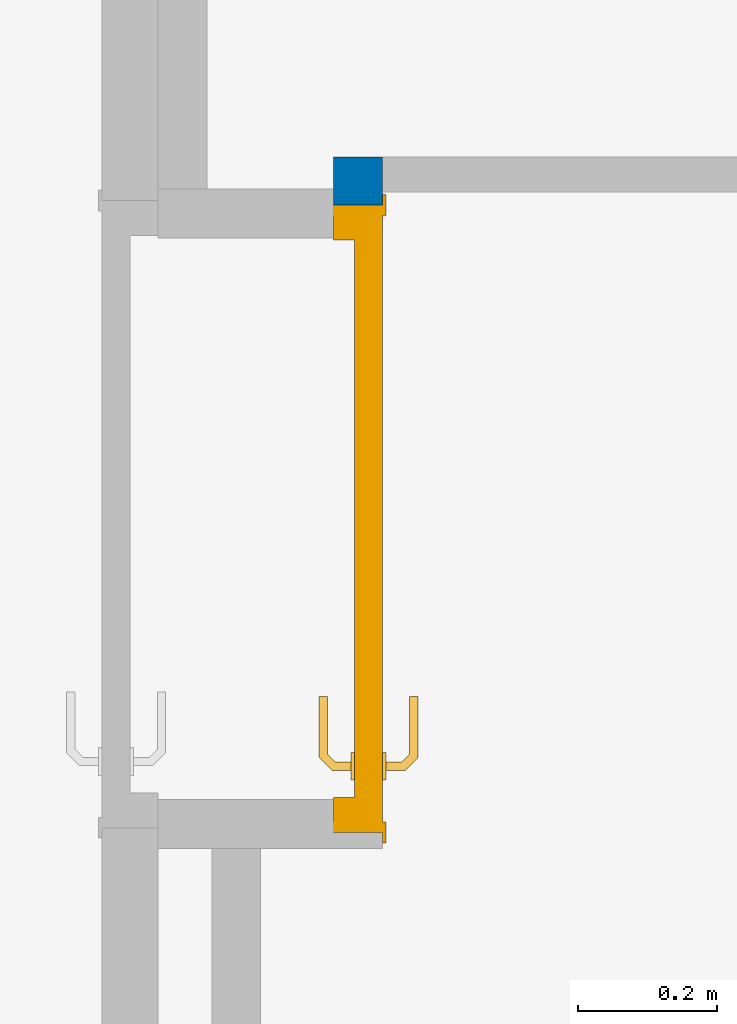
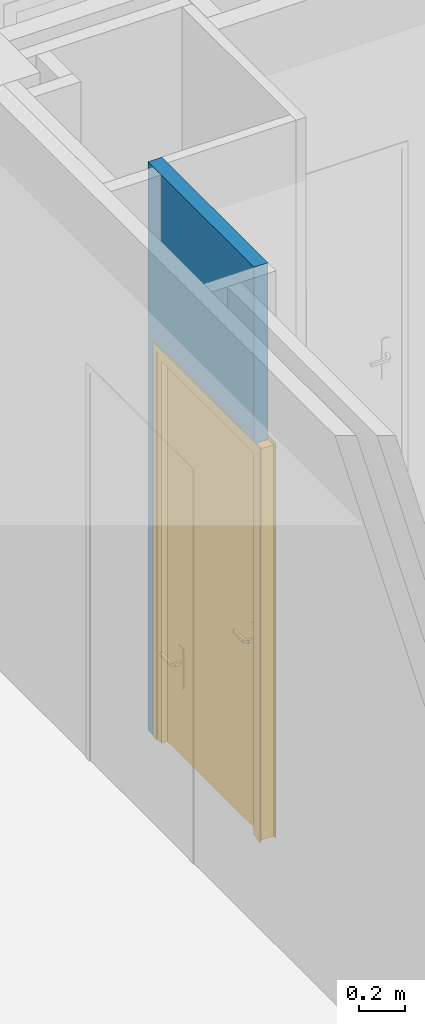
# One storey, part 39 of 97: 1 door, 1 wall, 1 opening.
"""IFC4 building model written with IfcOpenShell, lengths in metres."""

from ifc_helpers import new_model, entity, si_unit, converted_unit, derived_unit, direction, frame, origin, place, context, subcontext, project, spatial, indexed_curve, outline, extrude, polygons, source, transform, mapped, material, material_list, layer, layer_set, constituent, constituent_set, type_object, type_shapes, element, fill, save


model = new_model("IFC4")

# Units and contexts
model_context = context("Model", 3, precision=1e-05, world=origin(), true_north=direction((6.12303176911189e-17, 1.0)))
body_context = subcontext(model_context, "Body", "Model", "MODEL_VIEW")
ifc_project = project(units=[si_unit("LENGTHUNIT", "METRE"), si_unit("AREAUNIT", "SQUARE_METRE"), si_unit("VOLUMEUNIT", "CUBIC_METRE"), converted_unit("PLANEANGLEUNIT", "DEGREE", entity("IfcRatioMeasure", 0.0174532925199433), si_unit("PLANEANGLEUNIT", "RADIAN"), dimensions=[0, 0, 0, 0, 0, 0, 0]), si_unit("MASSUNIT", "GRAM", prefix="KILO"), derived_unit("MASSDENSITYUNIT", [(si_unit("MASSUNIT", "GRAM", prefix="KILO"), 1), (si_unit("LENGTHUNIT", "METRE"), -3)]), derived_unit("MOMENTOFINERTIAUNIT", [(si_unit("LENGTHUNIT", "METRE"), 4)]), si_unit("TIMEUNIT", "SECOND"), si_unit("FREQUENCYUNIT", "HERTZ"), si_unit("THERMODYNAMICTEMPERATUREUNIT", "DEGREE_CELSIUS"), derived_unit("THERMALTRANSMITTANCEUNIT", [(si_unit("MASSUNIT", "GRAM", prefix="KILO"), 1), (si_unit("THERMODYNAMICTEMPERATUREUNIT", "KELVIN"), -1), (si_unit("TIMEUNIT", "SECOND"), -3)]), derived_unit("VOLUMETRICFLOWRATEUNIT", [(si_unit("LENGTHUNIT", "METRE"), 3), (si_unit("TIMEUNIT", "SECOND"), -1)]), si_unit("ELECTRICCURRENTUNIT", "AMPERE"), si_unit("ELECTRICVOLTAGEUNIT", "VOLT"), si_unit("POWERUNIT", "WATT"), si_unit("FORCEUNIT", "NEWTON", prefix="KILO"), si_unit("ILLUMINANCEUNIT", "LUX"), si_unit("LUMINOUSFLUXUNIT", "LUMEN"), si_unit("LUMINOUSINTENSITYUNIT", "CANDELA"), derived_unit("USERDEFINED", [(si_unit("MASSUNIT", "GRAM", prefix="KILO"), -1), (si_unit("LENGTHUNIT", "METRE"), -2), (si_unit("TIMEUNIT", "SECOND"), 3), (si_unit("LUMINOUSFLUXUNIT", "LUMEN"), 1)]), derived_unit("LINEARVELOCITYUNIT", [(si_unit("LENGTHUNIT", "METRE"), 1), (si_unit("TIMEUNIT", "SECOND"), -1)]), si_unit("PRESSUREUNIT", "PASCAL"), derived_unit("USERDEFINED", [(si_unit("LENGTHUNIT", "METRE"), -2), (si_unit("MASSUNIT", "GRAM", prefix="KILO"), 1), (si_unit("TIMEUNIT", "SECOND"), -2)]), derived_unit("LINEARFORCEUNIT", [(si_unit("MASSUNIT", "GRAM", prefix="KILO"), 1), (si_unit("LENGTHUNIT", "METRE"), 1), (si_unit("TIMEUNIT", "SECOND"), -2), (si_unit("LENGTHUNIT", "METRE"), -1)]), derived_unit("PLANARFORCEUNIT", [(si_unit("MASSUNIT", "GRAM", prefix="KILO"), 1), (si_unit("LENGTHUNIT", "METRE"), 1), (si_unit("TIMEUNIT", "SECOND"), -2), (si_unit("LENGTHUNIT", "METRE"), -2)])], contexts=[model_context])

# Site, building, storey
site_placement = place(None, origin())
site = spatial("IfcSite", under=ifc_project, at=site_placement, Name="Default", CompositionType="ELEMENT")
building_placement = place(site_placement, origin())
building = spatial("IfcBuilding", under=site, at=building_placement, Name="HOTEL CONSULAIRE BOULOGNE SUR MER", CompositionType="ELEMENT")
storey_placement = place(building_placement, frame((0.0, 0.0, 3.62152697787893)))
storey = spatial("IfcBuildingStorey", under=building, at=storey_placement, Name="Niveau 1", CompositionType="ELEMENT", Elevation=3.62152697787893)

# Wall, opening, door
ifc_material_1 = material(Name="Mur par défaut", Category="Divers")
ifc_layer = layer(ifc_material_1, 0.07, Name="Mur par défaut", Category="Divers")
ifc_layer_set = layer_set([ifc_layer], Name="Mur de base:Int. Plâtre 70 mm")
wall_type = type_object("IfcWallType", Name="Mur de base:Int. Plâtre 70 mm", PredefinedType="NOTDEFINED", material=ifc_layer_set)
wall_placement = place(storey_placement, frame((-0.957144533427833, -25.927691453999, 0.0), z_axis=(0.0, 0.0, 1.0), x_axis=(0.0, 1.0, 0.0)))
wall = element("IfcWall", 1, at=wall_placement, inside=storey, type_object=wall_type, material=ifc_layer_set, Name="Mur de base:Int. Plâtre 70 mm", ObjectType="Mur de base:Int. Plâtre 70 mm", PredefinedType="NOTDEFINED", context=body_context, shape_type="Tessellation", body=[
    polygons([(0.922000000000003, -0.0349999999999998, 3.01021454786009), (0.0, -0.0349999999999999, 3.01021454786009), (0.0, -0.0349999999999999, 2.075), (0.853145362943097, -0.0349999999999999, 2.075), (0.853145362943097, -0.0349999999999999, 0.0), (0.922000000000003, -0.0349999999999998, 0.0), (0.0, 0.035, 3.01021454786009), (0.806290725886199, 0.035, 3.01021454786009), (0.8762907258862, 0.035, 3.01021454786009), (0.922000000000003, 0.0350000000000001, 3.01021454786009), (0.922000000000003, 0.0350000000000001, 0.0), (0.8762907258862, 0.035, 0.0), (0.853145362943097, 0.035, 0.0), (0.853145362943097, 0.035, 2.075), (0.0, 0.035, 2.075)], [[[2, 3, 4, 5, 6, 1]], [[10, 11, 12, 13, 14, 15, 7, 8, 9]], [[1, 6, 11, 10]], [[2, 1, 10, 9, 8, 7]], [[7, 15, 3, 2]], [[13, 5, 4, 14]], [[15, 14, 4, 3]], [[12, 11, 6, 5, 13]]], closed=True),
])
opening_placement = place(wall_placement, frame((0.853145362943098, 0.0349999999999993, 0.0)))
opening = element("IfcOpeningElement", 2, at=opening_placement, cuts=wall, Name="Int. Simple:PP (0.83m x 2.04m):1", ObjectType="Opening", PredefinedType="OPENING", context=body_context, shape_type="SweptSolid", body=[
    extrude(outline(indexed_curve([(0.0, 1.08286712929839e-15), (2.075, 1.08286712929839e-15), (2.075, 0.9), (0.0, 0.9), (0.0, 1.08286712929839e-15)], self_intersect=False)), frame((0.0, 0.0, 0.0), z_axis=(0.0, -1.0, 0.0), x_axis=(0.0, 0.0, 1.0)), (0.0, 0.0, 1.0), 0.07),
])
ifc_material_2 = material(Name="Finition Peinture - Blanc satiné", Category="Peinture")
ifc_constituent_1 = constituent(ifc_material_2, Name="Finition Peinture - Blanc satiné", Category="Matériaux")
ifc_material_3 = material(Name="Bois - Panneau de porte", Category="Bois")
ifc_constituent_2 = constituent(ifc_material_3, Name="Bois - Panneau de porte", Category="Matériaux")
ifc_material_4 = material(Name="Bois - Cadre de porte", Category="Bois")
ifc_constituent_3 = constituent(ifc_material_4, Name="Bois - Cadre de porte", Category="Matériaux")
ifc_constituent_set = constituent_set(constituents=[ifc_constituent_1, ifc_constituent_2, ifc_constituent_3], Name="MaterialConstituentSet")
ifc_material_list = material_list([ifc_material_3, ifc_material_2, ifc_material_4, ifc_material_4])
door_type = type_object("IfcDoorType", Name="Int. Simple:PP (0.83m x 2.04m)", OperationType="NOTDEFINED", PredefinedType="DOOR", material=ifc_material_list)
shared_shape = source(origin(), body_context, "Body", "Tessellation", [
    polygons([(0.0750000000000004, -0.00500000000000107, 0.870000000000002), (0.0846472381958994, -0.00500000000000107, 0.866003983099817), (0.0950000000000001, -0.00500000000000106, 0.86464101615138), (0.105352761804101, -0.00500000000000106, 0.866003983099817), (0.115, -0.00500000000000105, 0.870000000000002), (0.114999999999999, -0.00500000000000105, 1.08), (0.1053527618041, -0.00500000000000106, 1.08399601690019), (0.094999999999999, -0.00500000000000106, 1.08535898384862), (0.0846472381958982, -0.00500000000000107, 1.08399601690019), (0.0749999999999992, -0.00500000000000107, 1.08), (0.0749999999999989, -1.06594733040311e-15, 0.870000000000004), (0.0749999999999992, -1.06594733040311e-15, 1.08), (0.0846472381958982, -1.06171738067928e-15, 1.08399601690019), (0.094999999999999, -1.05748743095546e-15, 1.08535898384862), (0.1053527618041, -1.05325748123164e-15, 1.08399601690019), (0.114999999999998, -1.04902753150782e-15, 1.08), (0.115, -1.04902753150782e-15, 0.870000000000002), (0.105352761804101, -1.05325748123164e-15, 0.866003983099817), (0.0950000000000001, -1.05748743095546e-15, 0.86464101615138), (0.0846472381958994, -1.06171738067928e-15, 0.866003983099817)], [[[4, 5, 6, 7, 8, 9, 10, 1, 2, 3]], [[15, 16, 17, 18, 19, 20, 11, 12, 13, 14]], [[11, 20, 2, 1]], [[2, 20, 19, 3]], [[19, 18, 4, 3]], [[18, 17, 5, 4]], [[6, 5, 17, 16]], [[16, 15, 7, 6]], [[7, 15, 14, 8]], [[14, 13, 9, 8]], [[13, 12, 10, 9]], [[1, 10, 12, 11]]], closed=True),
    polygons([(0.114999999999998, 0.0399999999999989, 1.08), (0.105352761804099, 0.0399999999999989, 1.08399601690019), (0.0949999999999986, 0.0399999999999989, 1.08535898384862), (0.084647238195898, 0.0399999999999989, 1.08399601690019), (0.0749999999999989, 0.0399999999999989, 1.08), (0.0750000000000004, 0.0399999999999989, 0.870000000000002), (0.0846472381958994, 0.0399999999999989, 0.866003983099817), (0.0950000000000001, 0.0399999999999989, 0.86464101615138), (0.105352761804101, 0.0399999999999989, 0.866003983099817), (0.115, 0.0399999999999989, 0.870000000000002), (0.114999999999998, 0.0449999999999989, 1.08), (0.115, 0.0449999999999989, 0.870000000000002), (0.105352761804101, 0.0449999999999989, 0.866003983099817), (0.0950000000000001, 0.0449999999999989, 0.86464101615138), (0.0846472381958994, 0.0449999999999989, 0.866003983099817), (0.0749999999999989, 0.0449999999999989, 0.870000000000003), (0.0749999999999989, 0.0449999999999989, 1.08), (0.084647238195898, 0.0449999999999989, 1.08399601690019), (0.0949999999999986, 0.0449999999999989, 1.08535898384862), (0.105352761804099, 0.0449999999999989, 1.08399601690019)], [[[9, 10, 1, 2, 3, 4, 5, 6, 7, 8]], [[20, 11, 12, 13, 14, 15, 16, 17, 18, 19]], [[11, 20, 2, 1]], [[2, 20, 19, 3]], [[19, 18, 4, 3]], [[18, 17, 5, 4]], [[6, 5, 17, 16]], [[16, 15, 7, 6]], [[7, 15, 14, 8]], [[14, 13, 9, 8]], [[13, 12, 10, 9]], [[1, 10, 12, 11]]], closed=True),
    polygons([(0.0889999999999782, -0.00500000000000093, 1.007), (0.0929747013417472, -0.00500000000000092, 1.00778044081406), (0.0970252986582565, -0.0050000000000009, 1.00778044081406), (0.101000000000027, -0.00500000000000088, 1.00699999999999), (0.101000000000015, -0.00500000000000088, 0.993000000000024), (0.0970252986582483, -0.0050000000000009, 0.992219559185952), (0.0929747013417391, -0.00500000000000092, 0.99221955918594), (0.0889999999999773, -0.00500000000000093, 0.992999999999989), (0.0889999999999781, -0.0326509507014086, 1.007), (0.092974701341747, -0.0310045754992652, 1.00778044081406), (0.0970252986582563, -0.0293267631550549, 1.00778044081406), (0.101000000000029, -0.0276803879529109, 1.007), (0.101000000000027, -0.0276803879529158, 0.993000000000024), (0.0970252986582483, -0.0293267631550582, 0.992219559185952), (0.0929747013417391, -0.0310045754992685, 0.99221955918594), (0.0889999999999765, -0.0326509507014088, 0.992999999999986), (0.107377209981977, -0.0510281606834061, 1.007), (0.10902358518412, -0.0470534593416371, 1.00778044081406), (0.110701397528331, -0.0430028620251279, 1.00778044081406), (0.112347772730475, -0.0390281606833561, 1.007), (0.112347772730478, -0.0390281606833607, 0.993000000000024), (0.110701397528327, -0.0430028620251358, 0.992219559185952), (0.109023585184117, -0.0470534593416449, 0.99221955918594), (0.107377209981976, -0.0510281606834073, 0.992999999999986), (0.195018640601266, -0.0510281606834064, 1.00699999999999), (0.195018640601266, -0.0510281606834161, 0.992999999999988), (0.195018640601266, -0.0470534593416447, 0.99221955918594), (0.195018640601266, -0.0430028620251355, 0.992219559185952), (0.195018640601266, -0.039028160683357, 0.993000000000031), (0.195018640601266, -0.0390281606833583, 1.007), (0.195018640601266, -0.0430028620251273, 1.00778044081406), (0.195018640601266, -0.0470534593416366, 1.00778044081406), (0.147307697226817, -0.0510281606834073, 1.007), (0.152860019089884, -0.045028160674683, 1.0078786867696), (0.15368320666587, -0.039028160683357, 1.007), (0.147307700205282, -0.0510281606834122, 0.992999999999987), (0.152860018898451, -0.0450281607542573, 0.992121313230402), (0.153683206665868, -0.039028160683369, 0.993000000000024)], [[[2, 3, 4, 5, 6, 7, 8, 1]], [[21, 20, 35, 30, 29, 38]], [[9, 10, 2, 1]], [[10, 18, 19, 11, 3, 2]], [[11, 12, 4, 3]], [[5, 4, 12, 13]], [[26, 27, 28, 29, 30, 31, 32, 25]], [[13, 14, 6, 5]], [[14, 22, 23, 15, 7, 6]], [[15, 16, 8, 7]], [[1, 8, 16, 9]], [[17, 18, 10, 9]], [[19, 20, 12, 11]], [[13, 12, 20, 21]], [[21, 22, 14, 13]], [[23, 24, 16, 15]], [[9, 16, 24, 17]], [[33, 32, 34]], [[25, 32, 33]], [[18, 17, 33]], [[34, 35, 19]], [[20, 19, 35]], [[35, 31, 30]], [[32, 31, 34]], [[31, 35, 34]], [[18, 33, 34]], [[18, 34, 19]], [[38, 28, 37]], [[36, 37, 27]], [[21, 38, 22]], [[38, 29, 28]], [[26, 36, 27]], [[24, 23, 36]], [[36, 23, 37]], [[23, 22, 37]], [[22, 38, 37]], [[27, 37, 28]], [[17, 24, 36, 26, 25, 33]]], closed=True),
    polygons([(0.10100000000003, 0.0449999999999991, 0.993000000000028), (0.101000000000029, 0.0449999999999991, 1.007), (0.0970252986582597, 0.0449999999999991, 1.00778044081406), (0.0929747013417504, 0.0449999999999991, 1.00778044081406), (0.0889999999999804, 0.044999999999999, 1.007), (0.0889999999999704, 0.044999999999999, 0.992999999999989), (0.0929747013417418, 0.0449999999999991, 0.99221955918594), (0.0970252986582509, 0.0449999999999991, 0.992219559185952), (0.10100000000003, 0.067485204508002, 0.993000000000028), (0.10100000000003, 0.0674852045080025, 1.007), (0.0970252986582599, 0.0691315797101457, 1.00778044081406), (0.0929747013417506, 0.070809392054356, 1.00778044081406), (0.0889999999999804, 0.0724557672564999, 1.007), (0.0889999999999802, 0.072455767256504, 0.992999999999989), (0.0929747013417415, 0.0708093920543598, 0.99221955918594), (0.0970252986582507, 0.0691315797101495, 0.992219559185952), (0.112485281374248, 0.0789704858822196, 0.993000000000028), (0.112485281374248, 0.0789704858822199, 1.007), (0.110838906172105, 0.0829451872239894, 1.00778044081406), (0.109161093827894, 0.0869957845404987, 1.00778044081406), (0.107514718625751, 0.0909704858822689, 1.007), (0.107514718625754, 0.090970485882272, 0.992999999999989), (0.109161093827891, 0.0869957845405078, 0.99221955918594), (0.110838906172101, 0.0829451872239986, 0.992219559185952), (0.195045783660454, 0.0789704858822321, 0.993000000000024), (0.195045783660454, 0.0829451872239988, 0.992219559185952), (0.195045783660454, 0.086995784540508, 0.99221955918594), (0.195045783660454, 0.0909704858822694, 0.992999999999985), (0.195045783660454, 0.0909704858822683, 1.007), (0.195045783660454, 0.0869957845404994, 1.00778044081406), (0.195045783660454, 0.0829451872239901, 1.00778044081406), (0.195045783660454, 0.0789704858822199, 1.007), (0.147445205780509, 0.0909704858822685, 1.007), (0.152942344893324, 0.0849704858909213, 1.0078786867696), (0.153765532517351, 0.0789704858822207, 1.007), (0.147445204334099, 0.0909704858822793, 0.992999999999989), (0.152942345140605, 0.0849704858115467, 0.992121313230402), (0.153765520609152, 0.0789704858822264, 0.993000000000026)], [[[4, 5, 6, 7, 8, 1, 2, 3]], [[18, 17, 38, 25, 32, 35]], [[2, 1, 9, 10]], [[25, 26, 27, 28, 29, 30, 31, 32]], [[10, 11, 3, 2]], [[11, 19, 20, 12, 4, 3]], [[12, 13, 5, 4]], [[6, 5, 13, 14]], [[14, 15, 7, 6]], [[15, 23, 24, 16, 8, 7]], [[16, 9, 1, 8]], [[10, 9, 17, 18]], [[18, 19, 11, 10]], [[20, 21, 13, 12]], [[14, 13, 21, 22]], [[22, 23, 15, 14]], [[24, 17, 9, 16]], [[35, 31, 34]], [[33, 34, 30]], [[18, 35, 19]], [[35, 32, 31]], [[29, 33, 30]], [[21, 20, 33]], [[33, 20, 34]], [[20, 19, 34]], [[19, 35, 34]], [[30, 34, 31]], [[21, 33, 29, 28, 36, 22]], [[36, 27, 37]], [[28, 27, 36]], [[23, 22, 36]], [[37, 38, 24]], [[17, 24, 38]], [[38, 26, 25]], [[27, 26, 37]], [[26, 38, 37]], [[23, 36, 37]], [[23, 37, 24]]], closed=True),
    polygons([(0.034999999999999, 0.04, 2.04), (0.865, 0.04, 2.04), (0.864999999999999, 0.04, 0.0), (0.034999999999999, 0.04, 0.0), (0.034999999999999, 3.38395977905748e-17, 2.04), (0.034999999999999, 3.38395977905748e-17, 0.0), (0.864999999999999, 3.38395977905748e-17, 0.0), (0.865, 3.38395977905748e-17, 2.04)], [[[4, 1, 2, 3]], [[7, 8, 5, 6]], [[2, 1, 5, 8]], [[3, 2, 8, 7]], [[4, 3, 7, 6]], [[1, 4, 6, 5]]], closed=True),
    polygons([(-1.52954982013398e-14, 4.22994972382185e-18, 0.0), (-1.52954982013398e-14, 0.0699999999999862, 0.0), (0.0500000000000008, 0.0699999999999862, 0.0), (0.0500000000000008, 0.04, 0.0), (0.0349999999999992, 0.04, 0.0), (0.0349999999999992, 4.22994972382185e-18, 0.0), (-1.51601398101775e-14, 4.22994972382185e-18, 2.07500000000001), (-1.51601398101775e-14, 0.0699999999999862, 2.07500000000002), (0.900000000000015, 0.0699999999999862, 2.07500000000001), (0.900000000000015, 0.0699999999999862, 5.8808818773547e-24), (0.849999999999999, 0.0699999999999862, -4.86028664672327e-26), (0.849999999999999, 0.0699999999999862, 2.025), (0.0500000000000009, 0.0699999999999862, 2.025), (0.0500000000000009, 0.04, 2.025), (0.849999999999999, 0.04, 2.025), (0.849999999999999, 0.04, 1.99209647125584e-25), (0.865000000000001, 0.04, 1.51399295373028e-24), (0.865000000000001, 0.04, 2.04), (0.0349999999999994, 0.04, 2.04), (0.0349999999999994, 4.22994972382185e-18, 2.04), (0.865000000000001, 4.22994972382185e-18, 2.04), (0.865000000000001, 4.22994972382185e-18, -1.26556696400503e-24), (0.900000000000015, 4.22994972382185e-18, -3.95490676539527e-25), (0.900000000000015, 4.22994972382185e-18, 2.07500000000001)], [[[5, 6, 1, 2, 3, 4]], [[16, 11, 10, 23, 22, 17]], [[14, 13, 12, 15]], [[20, 19, 18, 21]], [[2, 1, 7, 8]], [[15, 12, 11, 16]], [[21, 18, 17, 22]], [[3, 2, 8, 9, 10, 11, 12, 13]], [[4, 3, 13, 14]], [[6, 5, 19, 20]], [[9, 24, 23, 10]], [[16, 17, 18, 19, 5, 4, 14, 15]], [[22, 23, 24, 7, 1, 6, 20, 21]], [[8, 7, 24, 9]]], closed=True),
    polygons([(0.0149999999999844, 0.0699999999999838, 1.35358391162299e-16), (-0.0150000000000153, 0.0699999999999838, 1.35358391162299e-16), (-0.0150000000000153, 0.0749999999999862, 1.35358391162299e-16), (0.0149999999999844, 0.0749999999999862, 1.35358391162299e-16), (0.0149999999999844, 0.0699999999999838, 2.06000000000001), (0.88499999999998, 0.0699999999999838, 2.06000000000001), (0.88499999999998, 0.0699999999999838, 4.03399441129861e-24), (0.91499999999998, 0.0699999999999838, -4.03399441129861e-24), (0.91499999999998, 0.0699999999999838, 2.09000000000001), (-0.0150000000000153, 0.0699999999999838, 2.09000000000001), (-0.0150000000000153, 0.0749999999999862, 2.09000000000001), (0.91499999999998, 0.0749999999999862, 2.09000000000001), (0.91499999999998, 0.0749999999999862, -4.03399441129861e-24), (0.88499999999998, 0.0749999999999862, 0.0), (0.88499999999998, 0.0749999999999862, 2.06000000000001), (0.0149999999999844, 0.0749999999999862, 2.06000000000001)], [[[2, 3, 4, 1]], [[14, 13, 8, 7]], [[5, 16, 15, 6]], [[7, 8, 9, 10, 2, 1, 5, 6]], [[3, 2, 10, 11]], [[6, 15, 14, 7]], [[4, 3, 11, 12, 13, 14, 15, 16]], [[1, 4, 16, 5]], [[12, 9, 8, 13]], [[11, 10, 9, 12]]], closed=True),
    polygons([(0.88499999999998, -0.00499999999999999, -1.35358391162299e-16), (0.88499999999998, -8.2484019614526e-16, -1.35358391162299e-16), (0.91499999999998, -8.2484019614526e-16, -1.35358391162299e-16), (0.91499999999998, -0.00499999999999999, -1.35358391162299e-16), (0.0149999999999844, -0.00499999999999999, 1.35358391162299e-16), (-0.0150000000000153, -0.00499999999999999, 1.35358391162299e-16), (-0.0150000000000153, -8.2484019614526e-16, 1.35358391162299e-16), (0.0149999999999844, -8.2484019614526e-16, 1.35358391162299e-16), (0.0149999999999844, -0.00499999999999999, 2.06000000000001), (0.88499999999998, -0.00499999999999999, 2.06000000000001), (0.91499999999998, -0.00499999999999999, 2.09000000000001), (-0.0150000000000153, -0.00499999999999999, 2.09000000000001), (-0.0150000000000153, -8.2484019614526e-16, 2.09000000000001), (0.91499999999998, -8.2484019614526e-16, 2.09000000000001), (0.88499999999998, -8.2484019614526e-16, 2.06000000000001), (0.0149999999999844, -8.2484019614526e-16, 2.06000000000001)], [[[2, 3, 4, 1]], [[6, 7, 8, 5]], [[9, 16, 15, 10]], [[1, 4, 11, 12, 6, 5, 9, 10]], [[7, 6, 12, 13]], [[10, 15, 2, 1]], [[8, 7, 13, 14, 3, 2, 15, 16]], [[5, 8, 16, 9]], [[14, 11, 4, 3]], [[13, 12, 11, 14]]], closed=True),
])
type_shapes(door_type, [shared_shape])
door_placement = place(opening_placement, frame((-0.899999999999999, -0.0699999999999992, 0.0)))
door = element("IfcDoor", 3, at=door_placement, inside=storey, type_object=door_type, material=ifc_constituent_set, Name="Int. Simple:PP (0.83m x 2.04m)", ObjectType="Int. Simple:PP (0.83m x 2.04m)", OperationType="NOTDEFINED", OverallHeight=2.075, OverallWidth=0.899999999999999, PredefinedType="DOOR", context=body_context, shape_type="MappedRepresentation", body=[
    mapped(shared_shape, transform((0.0, 0.0, 0.0), scale=1.0)),
])
fill(opening, door)

save(model, "model.ifc")
